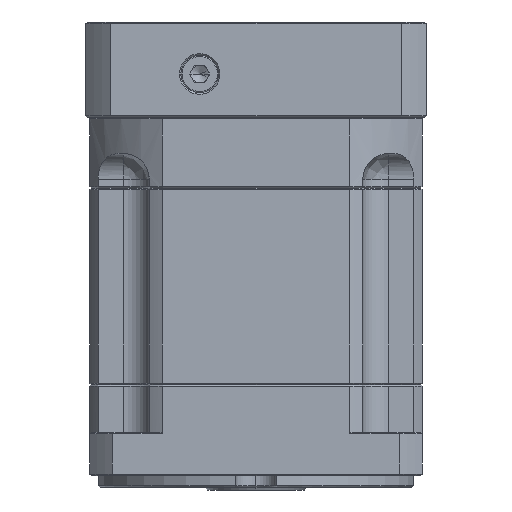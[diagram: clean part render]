
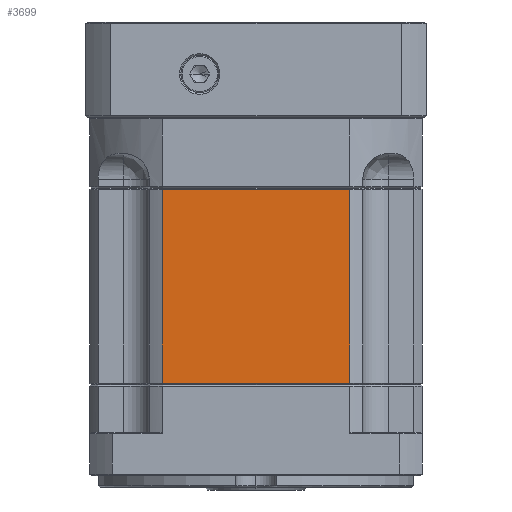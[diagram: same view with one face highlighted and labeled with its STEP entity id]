
A CAD part, left-side view. The second image highlights one B-rep face of the part: STEP entity #3699.
In plain terms, the highlighted planar face has unit normal (-1, 0, 0).
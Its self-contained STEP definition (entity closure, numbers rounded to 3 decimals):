
#2238 = DIRECTION ( 'NONE',  ( 0., -1., 0. ) ) ;
#3380 = EDGE_CURVE ( 'NONE', #28167, #46089, #91337, .T. ) ;
#3699 = ADVANCED_FACE ( 'NONE', ( #20842 ), #71919, .F. ) ;
#4861 = ORIENTED_EDGE ( 'NONE', *, *, #50359, .F. ) ;
#6990 = CARTESIAN_POINT ( 'NONE',  ( -16.02, 148.172, -50.25 ) ) ;
#8644 = CARTESIAN_POINT ( 'NONE',  ( -16.02, 58.272, -117.75 ) ) ;
#9289 = CARTESIAN_POINT ( 'NONE',  ( -16.02, 58.272, -50.25 ) ) ;
#14503 = CARTESIAN_POINT ( 'NONE',  ( -16.02, 148.172, -50.75 ) ) ;
#15671 = VERTEX_POINT ( 'NONE', #15869 ) ;
#15869 = CARTESIAN_POINT ( 'NONE',  ( -16.02, 148.172, -117.75 ) ) ;
#18328 = DIRECTION ( 'NONE',  ( 0., 1., 0. ) ) ;
#20319 = VECTOR ( 'NONE', #116226, 1000. ) ;
#20842 = FACE_OUTER_BOUND ( 'NONE', #38829, .T. ) ;
#21427 = ORIENTED_EDGE ( 'NONE', *, *, #116544, .F. ) ;
#28167 = VERTEX_POINT ( 'NONE', #66660 ) ;
#29395 = ORIENTED_EDGE ( 'NONE', *, *, #76743, .F. ) ;
#38829 = EDGE_LOOP ( 'NONE', ( #21427, #79004, #4861, #29395 ) ) ;
#43010 = LINE ( 'NONE', #6990, #91066 ) ;
#43354 = AXIS2_PLACEMENT_3D ( 'NONE', #9289, #72305, #18328 ) ;
#46089 = VERTEX_POINT ( 'NONE', #60201 ) ;
#50359 = EDGE_CURVE ( 'NONE', #57364, #28167, #92628, .T. ) ;
#55482 = CARTESIAN_POINT ( 'NONE',  ( -16.02, 83.372, -306.793 ) ) ;
#57364 = VERTEX_POINT ( 'NONE', #14503 ) ;
#60201 = CARTESIAN_POINT ( 'NONE',  ( -16.02, 83.372, -117.75 ) ) ;
#63275 = VECTOR ( 'NONE', #83478, 1000. ) ;
#66660 = CARTESIAN_POINT ( 'NONE',  ( -16.02, 83.372, -50.75 ) ) ;
#70040 = DIRECTION ( 'NONE',  ( 0., 0., 1. ) ) ;
#71919 = PLANE ( 'NONE',  #43354 ) ;
#72305 = DIRECTION ( 'NONE',  ( 1., 0., 0. ) ) ;
#76743 = EDGE_CURVE ( 'NONE', #15671, #57364, #43010, .T. ) ;
#79004 = ORIENTED_EDGE ( 'NONE', *, *, #3380, .F. ) ;
#83478 = DIRECTION ( 'NONE',  ( 0., 0., -1. ) ) ;
#91066 = VECTOR ( 'NONE', #70040, 1000. ) ;
#91337 = LINE ( 'NONE', #55482, #63275 ) ;
#91770 = CARTESIAN_POINT ( 'NONE',  ( -16.02, 115.772, -50.75 ) ) ;
#92628 = LINE ( 'NONE', #91770, #110849 ) ;
#110498 = LINE ( 'NONE', #8644, #20319 ) ;
#110849 = VECTOR ( 'NONE', #2238, 1000. ) ;
#116226 = DIRECTION ( 'NONE',  ( 0., 1., 0. ) ) ;
#116544 = EDGE_CURVE ( 'NONE', #46089, #15671, #110498, .T. ) ;
